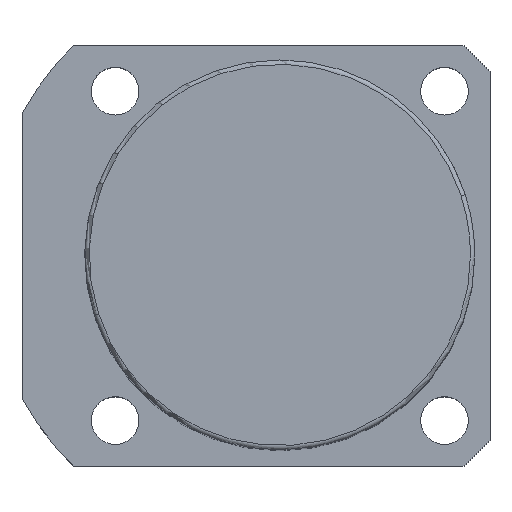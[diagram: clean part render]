
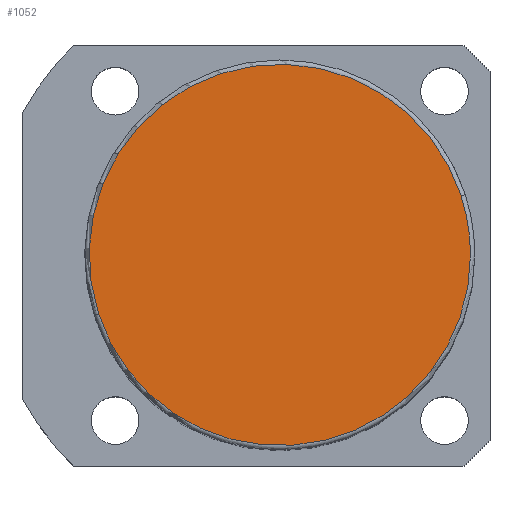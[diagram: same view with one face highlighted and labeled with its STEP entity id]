
A CAD part, top view. The second image highlights one B-rep face of the part: STEP entity #1052.
In plain terms, the highlighted planar face has unit normal (0, 0, 1).
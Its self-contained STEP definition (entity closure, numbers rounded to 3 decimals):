
#1018=CARTESIAN_POINT('',(44.0,0.0,141.5));
#1019=VERTEX_POINT('',#1018);
#1020=CARTESIAN_POINT('',(41.846,13.597,141.5));
#1021=VERTEX_POINT('',#1020);
#1022=CARTESIAN_POINT('',(0.0,0.0,141.5));
#1023=DIRECTION('',(0.0,0.0,1.0));
#1024=DIRECTION('',(1.0,0.0,0.0));
#1025=AXIS2_PLACEMENT_3D('',#1022,#1023,#1024);
#1026=CIRCLE('',#1025,44.0);
#1027=EDGE_CURVE('no 1646',#1019,#1021,#1026,.T.);
#1028=ORIENTED_EDGE('',*,*,#1027,.T.);
#1029=CARTESIAN_POINT('',(-41.846,-13.597,141.5));
#1030=VERTEX_POINT('',#1029);
#1031=CARTESIAN_POINT('',(0.0,0.0,141.5));
#1032=DIRECTION('',(0.0,0.0,1.0));
#1033=DIRECTION('',(1.0,0.0,0.0));
#1034=AXIS2_PLACEMENT_3D('',#1031,#1032,#1033);
#1035=CIRCLE('',#1034,44.0);
#1036=EDGE_CURVE('no 1652',#1021,#1030,#1035,.T.);
#1037=ORIENTED_EDGE('',*,*,#1036,.T.);
#1038=CARTESIAN_POINT('',(0.0,0.0,141.5));
#1039=DIRECTION('',(0.0,0.0,1.0));
#1040=DIRECTION('',(1.0,0.0,0.0));
#1041=AXIS2_PLACEMENT_3D('',#1038,#1039,#1040);
#1042=CIRCLE('',#1041,44.0);
#1043=EDGE_CURVE('no 1656',#1030,#1019,#1042,.T.);
#1044=ORIENTED_EDGE('',*,*,#1043,.T.);
#1045=EDGE_LOOP('',(#1028,#1037,#1044));
#1046=FACE_OUTER_BOUND('',#1045,.T.);
#1047=CARTESIAN_POINT('',(0.0,0.0,141.5));
#1048=DIRECTION('',(0.0,0.0,1.0));
#1049=DIRECTION('',(1.0,0.0,0.0));
#1050=AXIS2_PLACEMENT_3D('',#1047,#1048,#1049);
#1051=PLANE('',#1050);
#1052=ADVANCED_FACE('no 1637',(#1046),#1051,.T.);
